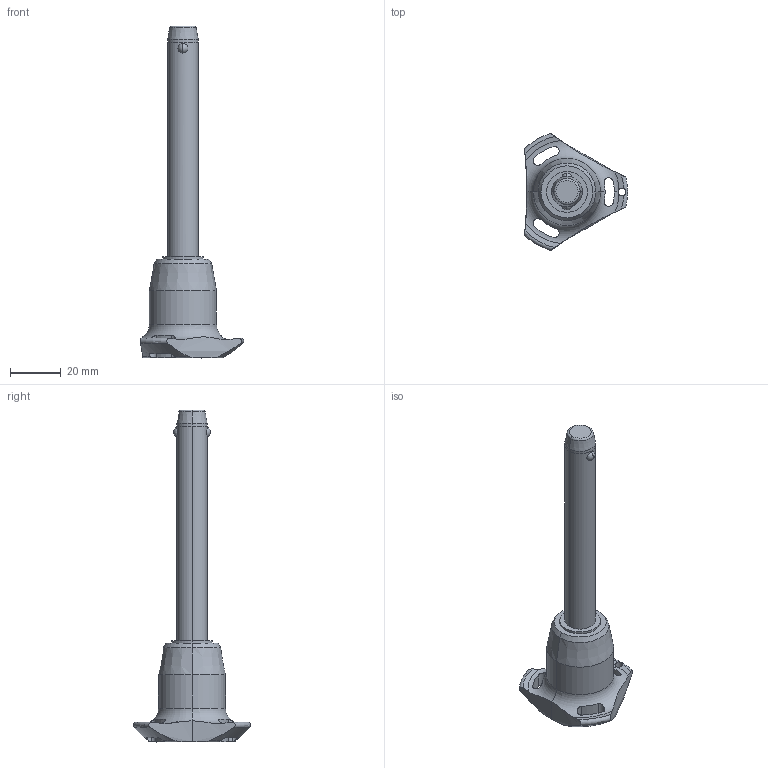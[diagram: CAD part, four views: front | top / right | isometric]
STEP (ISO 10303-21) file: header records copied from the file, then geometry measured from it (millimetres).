
FILE_DESCRIPTION (( 'STEP AP203' ), '1' );
FILE_NAME ('QR1716.M12-080-T.step', '2025-11-13T10:37:18', ( '' ), ( '' ), 'SwSTEP 2.0', 'SolidWorks 2019', '' );
FILE_SCHEMA (( 'CONFIG_CONTROL_DESIGN' ));
Length unit declared in the file: millimetre
Products named in the file (1): QR1716.M12-080-T
Bounding box: 40.5 x 45.88 x 130.3 mm (x, y, z)
Volume: 32182.5 mm3; surface area: 9353.8 mm2
Topology: 1 solids, 1 shells, 68 faces, 184 edges, 117 vertices
Faces by surface type: cylinder 32, cone 14, torus 11, sphere 6, plane 5
Entity records: 2942 total; most frequent: CARTESIAN_POINT 1186, ORIENTED_EDGE 368, DIRECTION 345, EDGE_CURVE 184, AXIS2_PLACEMENT_3D 154, VERTEX_POINT 117, CIRCLE 85, EDGE_LOOP 75
